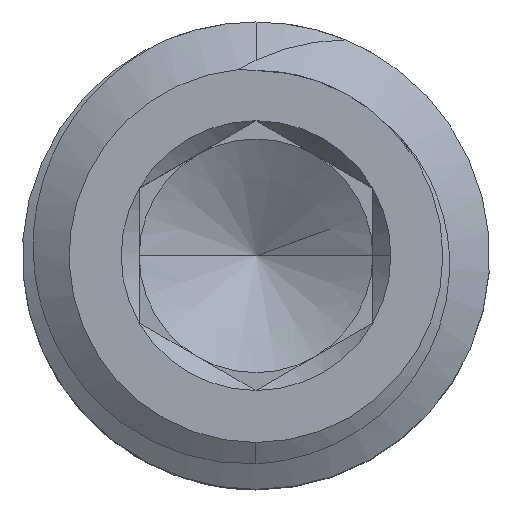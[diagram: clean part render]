
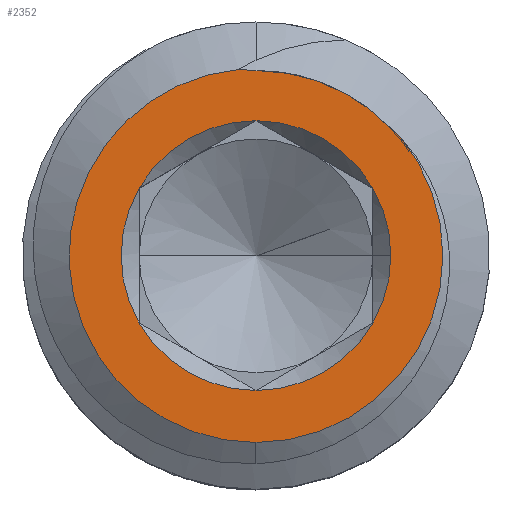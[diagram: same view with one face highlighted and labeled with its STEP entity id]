
A CAD part, top view. The second image highlights one B-rep face of the part: STEP entity #2352.
In plain terms, the highlighted planar face has unit normal (0, 0, 1).
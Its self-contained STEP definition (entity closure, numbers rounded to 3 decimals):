
#3 = CARTESIAN_POINT ( 'NONE',  ( 0., 0., 2.588 ) ) ;
#7 = PLANE ( 'NONE',  #775 ) ;
#13 = VERTEX_POINT ( 'NONE', #205 ) ;
#42 = VERTEX_POINT ( 'NONE', #454 ) ;
#50 = CARTESIAN_POINT ( 'NONE',  ( 0., 0., 2.588 ) ) ;
#51 = CIRCLE ( 'NONE', #652, 1.443 ) ;
#59 = DIRECTION ( 'NONE',  ( 1., 0., 0. ) ) ;
#76 = CARTESIAN_POINT ( 'NONE',  ( -0.184, 1.992, 2.588 ) ) ;
#90 = AXIS2_PLACEMENT_3D ( 'NONE', #1832, #2640, #1425 ) ;
#131 = CARTESIAN_POINT ( 'NONE',  ( 1.538, 1.278, 2.588 ) ) ;
#142 = CARTESIAN_POINT ( 'NONE',  ( 1.494, 1.321, 2.588 ) ) ;
#164 = CARTESIAN_POINT ( 'NONE',  ( 0.515, 1.917, 2.588 ) ) ;
#186 = DIRECTION ( 'NONE',  ( 1., 0., 0. ) ) ;
#198 = CARTESIAN_POINT ( 'NONE',  ( 0., 0., 2.588 ) ) ;
#205 = CARTESIAN_POINT ( 'NONE',  ( 0., 1.98, 2.588 ) ) ;
#212 = CARTESIAN_POINT ( 'NONE',  ( -0.123, 1.991, 2.588 ) ) ;
#220 = CIRCLE ( 'NONE', #595, 1.443 ) ;
#246 = VERTEX_POINT ( 'NONE', #2142 ) ;
#262 = ORIENTED_EDGE ( 'NONE', *, *, #385, .F. ) ;
#285 = DIRECTION ( 'NONE',  ( 1., 0., 0. ) ) ;
#292 = ORIENTED_EDGE ( 'NONE', *, *, #526, .F. ) ;
#317 = CIRCLE ( 'NONE', #2533, 1.443 ) ;
#370 = CARTESIAN_POINT ( 'NONE',  ( 1.208, 1.575, 2.588 ) ) ;
#385 = EDGE_CURVE ( 'NONE', #716, #2355, #2136, .T. ) ;
#401 = CARTESIAN_POINT ( 'NONE',  ( 1.25, -0.722, 2.588 ) ) ;
#419 = DIRECTION ( 'NONE',  ( 0., 0., 1. ) ) ;
#451 = FACE_OUTER_BOUND ( 'NONE', #1705, .T. ) ;
#454 = CARTESIAN_POINT ( 'NONE',  ( 1.25, 0.722, 2.588 ) ) ;
#493 = VERTEX_POINT ( 'NONE', #964 ) ;
#526 = EDGE_CURVE ( 'NONE', #13, #1748, #1020, .T. ) ;
#551 = B_SPLINE_CURVE_WITH_KNOTS ( 'NONE', 3,
 ( #806, #212, #1599, #2451 ),
 .UNSPECIFIED., .F., .F.,
 ( 4, 4 ),
 ( 0.002, 0.002 ),
 .UNSPECIFIED. ) ;
#557 = CARTESIAN_POINT ( 'NONE',  ( 1.308, 1.493, 2.588 ) ) ;
#575 = EDGE_CURVE ( 'NONE', #1646, #246, #2326, .T. ) ;
#595 = AXIS2_PLACEMENT_3D ( 'NONE', #1083, #1685, #285 ) ;
#614 = DIRECTION ( 'NONE',  ( 0., 0., 1. ) ) ;
#630 = CARTESIAN_POINT ( 'NONE',  ( 0., 0., 2.588 ) ) ;
#648 = CARTESIAN_POINT ( 'NONE',  ( 0., -2., 2.588 ) ) ;
#652 = AXIS2_PLACEMENT_3D ( 'NONE', #1945, #2348, #1135 ) ;
#665 = EDGE_CURVE ( 'NONE', #1835, #13, #551, .T. ) ;
#695 = CARTESIAN_POINT ( 'NONE',  ( 0., 0., 2.588 ) ) ;
#716 = VERTEX_POINT ( 'NONE', #2027 ) ;
#775 = AXIS2_PLACEMENT_3D ( 'NONE', #630, #1220, #1829 ) ;
#778 = CARTESIAN_POINT ( 'NONE',  ( 0.262, 1.967, 2.588 ) ) ;
#790 = CARTESIAN_POINT ( 'NONE',  ( 1.4, 1.4, 2.588 ) ) ;
#806 = CARTESIAN_POINT ( 'NONE',  ( -0.184, 1.992, 2.588 ) ) ;
#845 = VERTEX_POINT ( 'NONE', #648 ) ;
#873 = AXIS2_PLACEMENT_3D ( 'NONE', #1624, #419, #2433 ) ;
#921 = EDGE_CURVE ( 'NONE', #1835, #845, #1507, .T. ) ;
#934 = DIRECTION ( 'NONE',  ( 0., -1., 0. ) ) ;
#964 = CARTESIAN_POINT ( 'NONE',  ( 1.443, 0., 2.588 ) ) ;
#988 = AXIS2_PLACEMENT_3D ( 'NONE', #3, #1002, #186 ) ;
#1002 = DIRECTION ( 'NONE',  ( 0., 0., 1. ) ) ;
#1020 = B_SPLINE_CURVE_WITH_KNOTS ( 'NONE', 3,
 ( #2603, #1765, #778, #164, #2612, #1395, #2404, #370, #557, #1191 ),
 .UNSPECIFIED., .F., .F.,
 ( 4, 2, 2, 2, 4 ),
 ( 0., 0., 0.001, 0.001, 0.002 ),
 .UNSPECIFIED. ) ;
#1046 = CARTESIAN_POINT ( 'NONE',  ( 0., 1.443, 2.588 ) ) ;
#1083 = CARTESIAN_POINT ( 'NONE',  ( 0., 0., 2.588 ) ) ;
#1104 = DIRECTION ( 'NONE',  ( 0., 0., 1. ) ) ;
#1132 = VERTEX_POINT ( 'NONE', #131 ) ;
#1135 = DIRECTION ( 'NONE',  ( 1., 0., 0. ) ) ;
#1191 = CARTESIAN_POINT ( 'NONE',  ( 1.4, 1.4, 2.588 ) ) ;
#1220 = DIRECTION ( 'NONE',  ( 0., 0., -1. ) ) ;
#1243 = CIRCLE ( 'NONE', #1859, 1.443 ) ;
#1301 = DIRECTION ( 'NONE',  ( 0., 0., 1. ) ) ;
#1390 = ORIENTED_EDGE ( 'NONE', *, *, #575, .F. ) ;
#1395 = CARTESIAN_POINT ( 'NONE',  ( 0.878, 1.78, 2.588 ) ) ;
#1424 = CIRCLE ( 'NONE', #988, 1.443 ) ;
#1425 = DIRECTION ( 'NONE',  ( 1., 0., 0. ) ) ;
#1462 = ORIENTED_EDGE ( 'NONE', *, *, #1891, .F. ) ;
#1469 = AXIS2_PLACEMENT_3D ( 'NONE', #1721, #1104, #934 ) ;
#1486 = EDGE_CURVE ( 'NONE', #2355, #493, #51, .T. ) ;
#1507 = CIRCLE ( 'NONE', #1469, 2. ) ;
#1581 = CARTESIAN_POINT ( 'NONE',  ( 1.4, 1.4, 2.588 ) ) ;
#1599 = CARTESIAN_POINT ( 'NONE',  ( -0.061, 1.987, 2.588 ) ) ;
#1624 = CARTESIAN_POINT ( 'NONE',  ( 0., 0., 2.588 ) ) ;
#1640 = ORIENTED_EDGE ( 'NONE', *, *, #1811, .T. ) ;
#1646 = VERTEX_POINT ( 'NONE', #2129 ) ;
#1685 = DIRECTION ( 'NONE',  ( 0., 0., 1. ) ) ;
#1705 = EDGE_LOOP ( 'NONE', ( #2518, #2502, #1640, #2328, #292 ) ) ;
#1721 = CARTESIAN_POINT ( 'NONE',  ( 0., 0., 2.588 ) ) ;
#1748 = VERTEX_POINT ( 'NONE', #790 ) ;
#1765 = CARTESIAN_POINT ( 'NONE',  ( 0.131, 1.98, 2.588 ) ) ;
#1767 = ORIENTED_EDGE ( 'NONE', *, *, #1788, .F. ) ;
#1772 = CIRCLE ( 'NONE', #1997, 2. ) ;
#1788 = EDGE_CURVE ( 'NONE', #246, #716, #1243, .T. ) ;
#1811 = EDGE_CURVE ( 'NONE', #845, #1132, #1772, .T. ) ;
#1829 = DIRECTION ( 'NONE',  ( 0., 1., 0. ) ) ;
#1832 = CARTESIAN_POINT ( 'NONE',  ( 0., 0., 2.588 ) ) ;
#1834 = EDGE_CURVE ( 'NONE', #493, #42, #220, .T. ) ;
#1835 = VERTEX_POINT ( 'NONE', #76 ) ;
#1857 = ORIENTED_EDGE ( 'NONE', *, *, #1944, .F. ) ;
#1859 = AXIS2_PLACEMENT_3D ( 'NONE', #50, #1301, #59 ) ;
#1891 = EDGE_CURVE ( 'NONE', #2098, #1646, #317, .T. ) ;
#1892 = DIRECTION ( 'NONE',  ( 0., -1., 0. ) ) ;
#1944 = EDGE_CURVE ( 'NONE', #42, #2098, #1424, .T. ) ;
#1945 = CARTESIAN_POINT ( 'NONE',  ( 0., 0., 2.588 ) ) ;
#1977 = CARTESIAN_POINT ( 'NONE',  ( 1.448, 1.361, 2.588 ) ) ;
#1978 = EDGE_LOOP ( 'NONE', ( #1462, #1857, #2608, #2317, #262, #1767, #1390 ) ) ;
#1997 = AXIS2_PLACEMENT_3D ( 'NONE', #695, #2517, #1892 ) ;
#2027 = CARTESIAN_POINT ( 'NONE',  ( 0., -1.443, 2.588 ) ) ;
#2098 = VERTEX_POINT ( 'NONE', #1046 ) ;
#2129 = CARTESIAN_POINT ( 'NONE',  ( -1.25, 0.722, 2.588 ) ) ;
#2133 = EDGE_CURVE ( 'NONE', #1748, #1132, #2391, .T. ) ;
#2136 = CIRCLE ( 'NONE', #90, 1.443 ) ;
#2142 = CARTESIAN_POINT ( 'NONE',  ( -1.25, -0.722, 2.588 ) ) ;
#2256 = FACE_BOUND ( 'NONE', #1978, .T. ) ;
#2317 = ORIENTED_EDGE ( 'NONE', *, *, #1486, .F. ) ;
#2326 = CIRCLE ( 'NONE', #873, 1.443 ) ;
#2328 = ORIENTED_EDGE ( 'NONE', *, *, #2133, .F. ) ;
#2348 = DIRECTION ( 'NONE',  ( 0., 0., 1. ) ) ;
#2352 = ADVANCED_FACE ( 'NONE', ( #2256, #451 ), #7, .F. ) ;
#2355 = VERTEX_POINT ( 'NONE', #401 ) ;
#2391 = B_SPLINE_CURVE_WITH_KNOTS ( 'NONE', 3,
 ( #1581, #1977, #142, #2592 ),
 .UNSPECIFIED., .F., .F.,
 ( 4, 4 ),
 ( 0., 0. ),
 .UNSPECIFIED. ) ;
#2404 = CARTESIAN_POINT ( 'NONE',  ( 0.994, 1.718, 2.588 ) ) ;
#2433 = DIRECTION ( 'NONE',  ( 1., 0., 0. ) ) ;
#2438 = DIRECTION ( 'NONE',  ( 1., 0., 0. ) ) ;
#2451 = CARTESIAN_POINT ( 'NONE',  ( 0., 1.98, 2.588 ) ) ;
#2502 = ORIENTED_EDGE ( 'NONE', *, *, #921, .T. ) ;
#2517 = DIRECTION ( 'NONE',  ( 0., 0., 1. ) ) ;
#2518 = ORIENTED_EDGE ( 'NONE', *, *, #665, .F. ) ;
#2533 = AXIS2_PLACEMENT_3D ( 'NONE', #198, #614, #2438 ) ;
#2592 = CARTESIAN_POINT ( 'NONE',  ( 1.538, 1.278, 2.588 ) ) ;
#2603 = CARTESIAN_POINT ( 'NONE',  ( 0., 1.98, 2.588 ) ) ;
#2608 = ORIENTED_EDGE ( 'NONE', *, *, #1834, .F. ) ;
#2612 = CARTESIAN_POINT ( 'NONE',  ( 0.638, 1.879, 2.588 ) ) ;
#2640 = DIRECTION ( 'NONE',  ( 0., 0., 1. ) ) ;
